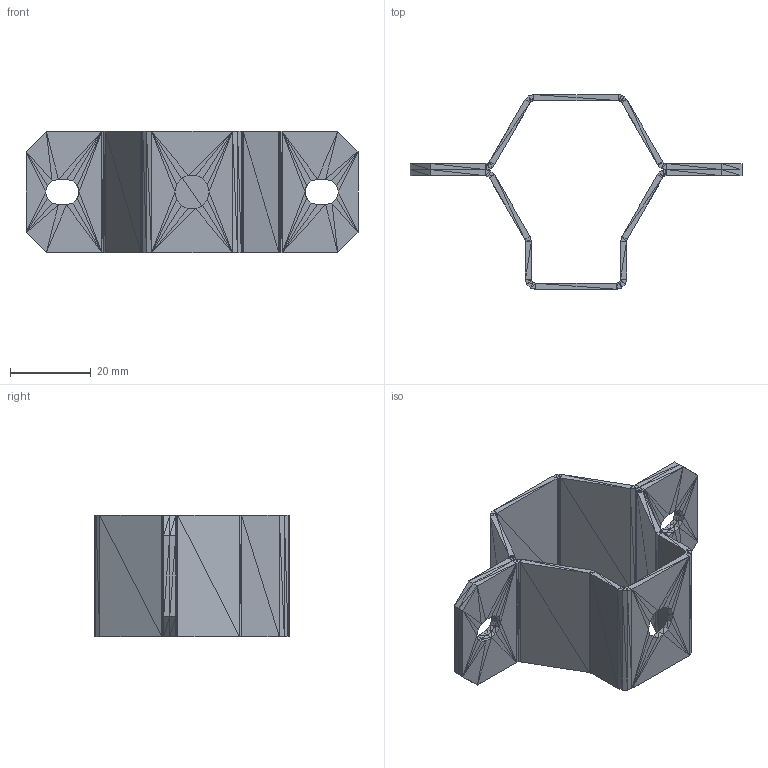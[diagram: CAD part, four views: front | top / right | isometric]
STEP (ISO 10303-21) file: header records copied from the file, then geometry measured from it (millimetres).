
FILE_DESCRIPTION((''),'2;1');
FILE_NAME('012531', '2025-07-25T12:09:03', (''), (''), 'ImageToStl.com STEP Converter','', '');
FILE_SCHEMA(('AUTOMOTIVE_DESIGN_CC2'));
Length unit declared in the file: metre
Products named in the file (1): product0
Bounding box: 82 x 48.1 x 30 mm (x, y, z)
Surface area: 13536.9 mm2 (no closed solid volume)
Topology: 0 solids, 636 shells, 636 faces, 1908 edges, 294 vertices
Faces by surface type: plane 636
Entity records: 14608 total; most frequent: DIRECTION 3182, ORIENTED_EDGE 1908, EDGE_CURVE 1908, LINE 1908, VECTOR 1908, AXIS2_PLACEMENT_3D 637, FACE_SURFACE 636, PLANE 636
